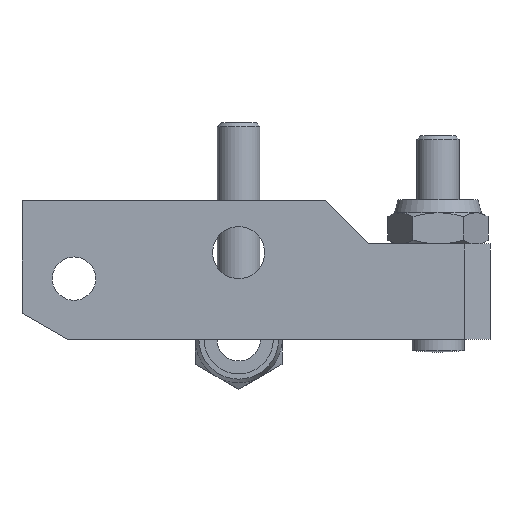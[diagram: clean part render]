
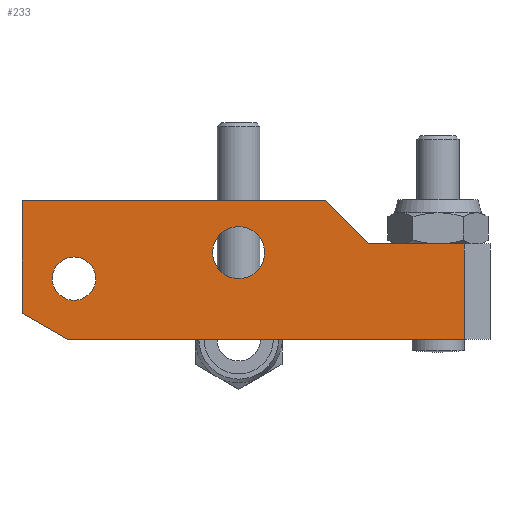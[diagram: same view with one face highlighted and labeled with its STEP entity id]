
A CAD part, front view. The second image highlights one B-rep face of the part: STEP entity #233.
In plain terms, the highlighted planar face has unit normal (0, -1, 0).
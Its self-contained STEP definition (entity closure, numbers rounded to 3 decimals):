
#233 = ADVANCED_FACE( '', ( #315, #316, #317 ), #318, .T. );
#315 = FACE_BOUND( '', #474, .T. );
#316 = FACE_OUTER_BOUND( '', #475, .T. );
#317 = FACE_BOUND( '', #476, .T. );
#318 = PLANE( '', #477 );
#474 = EDGE_LOOP( '', ( #699 ) );
#475 = EDGE_LOOP( '', ( #700, #701, #702, #703, #704, #705, #706 ) );
#476 = EDGE_LOOP( '', ( #707 ) );
#477 = AXIS2_PLACEMENT_3D( '', #708, #709, #710 );
#699 = ORIENTED_EDGE( '', *, *, #1117, .T. );
#700 = ORIENTED_EDGE( '', *, *, #1102, .T. );
#701 = ORIENTED_EDGE( '', *, *, #1084, .T. );
#702 = ORIENTED_EDGE( '', *, *, #1113, .T. );
#703 = ORIENTED_EDGE( '', *, *, #1118, .T. );
#704 = ORIENTED_EDGE( '', *, *, #1095, .T. );
#705 = ORIENTED_EDGE( '', *, *, #1119, .T. );
#706 = ORIENTED_EDGE( '', *, *, #1120, .T. );
#707 = ORIENTED_EDGE( '', *, *, #1121, .T. );
#708 = CARTESIAN_POINT( '', ( 29., -6., -28.177 ) );
#709 = DIRECTION( '', ( 0., -1., 0. ) );
#710 = DIRECTION( '', ( 0., 0., -1. ) );
#1084 = EDGE_CURVE( '', #1222, #1226, #1228, .T. );
#1095 = EDGE_CURVE( '', #1247, #1245, #1248, .T. );
#1102 = EDGE_CURVE( '', #1259, #1222, #1260, .T. );
#1113 = EDGE_CURVE( '', #1226, #1276, #1278, .T. );
#1117 = EDGE_CURVE( '', #1284, #1284, #1285, .T. );
#1118 = EDGE_CURVE( '', #1276, #1247, #1286, .T. );
#1119 = EDGE_CURVE( '', #1245, #1287, #1288, .T. );
#1120 = EDGE_CURVE( '', #1287, #1259, #1289, .T. );
#1121 = EDGE_CURVE( '', #1290, #1290, #1291, .T. );
#1222 = VERTEX_POINT( '', #1452 );
#1226 = VERTEX_POINT( '', #1458 );
#1228 = LINE( '', #1461, #1462 );
#1245 = VERTEX_POINT( '', #1487 );
#1247 = VERTEX_POINT( '', #1490 );
#1248 = LINE( '', #1491, #1492 );
#1259 = VERTEX_POINT( '', #1508 );
#1260 = LINE( '', #1509, #1510 );
#1276 = VERTEX_POINT( '', #1534 );
#1278 = LINE( '', #1537, #1538 );
#1284 = VERTEX_POINT( '', #1545 );
#1285 = CIRCLE( '', #1546, 3. );
#1286 = LINE( '', #1547, #1548 );
#1287 = VERTEX_POINT( '', #1549 );
#1288 = LINE( '', #1550, #1551 );
#1289 = LINE( '', #1552, #1553 );
#1290 = VERTEX_POINT( '', #1554 );
#1291 = CIRCLE( '', #1555, 2.5 );
#1452 = CARTESIAN_POINT( '', ( 26., -6., 0. ) );
#1458 = CARTESIAN_POINT( '', ( 26., -6., 11. ) );
#1461 = CARTESIAN_POINT( '', ( 26., -6., 11. ) );
#1462 = VECTOR( '', #1864, 1000. );
#1487 = CARTESIAN_POINT( '', ( -25., -6., 16. ) );
#1490 = CARTESIAN_POINT( '', ( 10., -6., 16. ) );
#1491 = CARTESIAN_POINT( '', ( 10., -6., 16. ) );
#1492 = VECTOR( '', #1877, 1000. );
#1508 = CARTESIAN_POINT( '', ( -19.804, -6., 0. ) );
#1509 = CARTESIAN_POINT( '', ( -19.804, -6., 0. ) );
#1510 = VECTOR( '', #1886, 1000. );
#1534 = CARTESIAN_POINT( '', ( 15., -6., 11. ) );
#1537 = CARTESIAN_POINT( '', ( 29., -6., 11. ) );
#1538 = VECTOR( '', #1899, 1000. );
#1545 = CARTESIAN_POINT( '', ( 3., -6., 10. ) );
#1546 = AXIS2_PLACEMENT_3D( '', #1907, #1908, #1909 );
#1547 = CARTESIAN_POINT( '', ( 15., -6., 11. ) );
#1548 = VECTOR( '', #1910, 1000. );
#1549 = CARTESIAN_POINT( '', ( -25., -6., 3. ) );
#1550 = CARTESIAN_POINT( '', ( -25., -6., 16. ) );
#1551 = VECTOR( '', #1911, 1000. );
#1552 = CARTESIAN_POINT( '', ( -25., -6., 3. ) );
#1553 = VECTOR( '', #1912, 1000. );
#1554 = CARTESIAN_POINT( '', ( -16.5, -6., 7. ) );
#1555 = AXIS2_PLACEMENT_3D( '', #1913, #1914, #1915 );
#1864 = DIRECTION( '', ( 0., 0., 1. ) );
#1877 = DIRECTION( '', ( -1., 0., 0. ) );
#1886 = DIRECTION( '', ( 1., 0., 0. ) );
#1899 = DIRECTION( '', ( -1., 0., 0. ) );
#1907 = CARTESIAN_POINT( '', ( 0., -6., 10. ) );
#1908 = DIRECTION( '', ( 0., 1., 0. ) );
#1909 = DIRECTION( '', ( 1., 0., 0. ) );
#1910 = DIRECTION( '', ( -0.707, 0., 0.707 ) );
#1911 = DIRECTION( '', ( 0., 0., -1. ) );
#1912 = DIRECTION( '', ( 0.866, 0., -0.5 ) );
#1913 = CARTESIAN_POINT( '', ( -19., -6., 7. ) );
#1914 = DIRECTION( '', ( 0., 1., 0. ) );
#1915 = DIRECTION( '', ( 1., 0., 0. ) );
